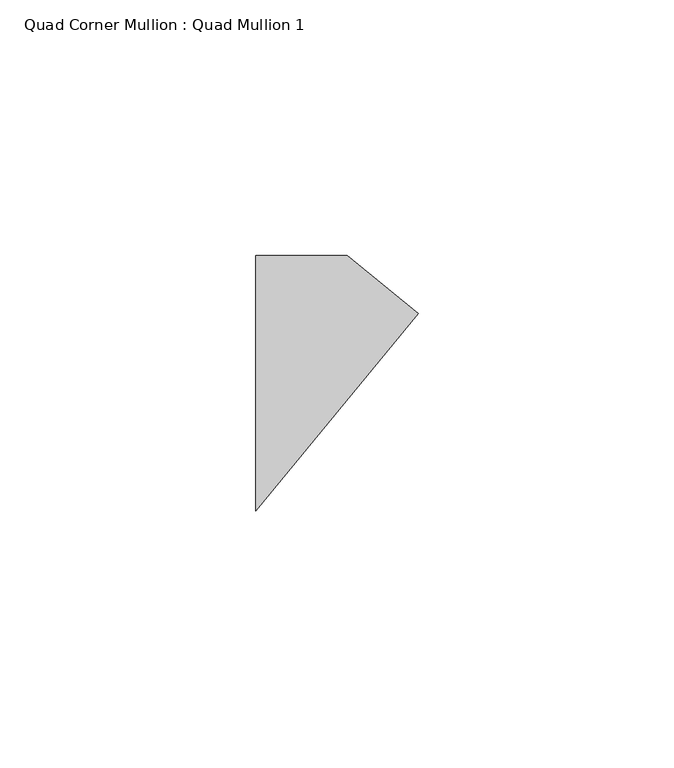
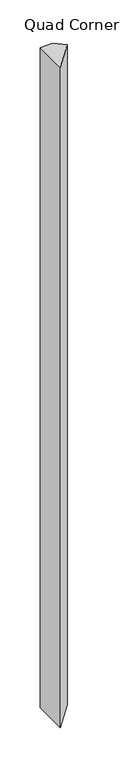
"""IFC4 building model written with IfcOpenShell, lengths in millimetres: member geometry, Quad Corner Mullion : Quad Mullion 1."""

from ifc_helpers import new_model, si_unit, frame, origin, place, context, project, spatial, polyline, outline, extrude, source, transform, mapped, element, save


def quad_corner_mullion_quad_mullion_1_27d62818(model_context):
    return source(origin(), model_context, "Body", "SweptSolid", [
        extrude(outline(polyline([(22.8068923, 13.6086231), (-8.963758, -25.0), (-8.963758, 25.0), (8.963758, 25.0), (22.8068923, 13.6086231)])), frame((0.0, 0.0, -1000.0), z_axis=(0.0, 0.0, 1.0), x_axis=(1.0, 0.0, 0.0)), (0.0, 0.0, 1.0), 1000.0),
    ])


if __name__ == "__main__":
    model = new_model("IFC4")
    model_context = context("Model", 3, world=origin())
    ifc_project = project(units=[si_unit("LENGTHUNIT", "METRE", prefix="MILLI")], contexts=[model_context])
    site = spatial("IfcSite", under=ifc_project)
    building = spatial("IfcBuilding", under=site)
    placement = place(None, origin())
    quad_corner_mullion_quad_mullion_1_shape = quad_corner_mullion_quad_mullion_1_27d62818(model_context)
    element("IfcMember", 1, ObjectType="Quad Corner Mullion : Quad Mullion 1", at=placement, inside=building, context=model_context, shape_type="MappedRepresentation", body=[
        mapped(quad_corner_mullion_quad_mullion_1_shape, transform((0.0, 0.0, 0.0), x_axis=(1.0, 0.0, 0.0), y_axis=(0.0, 1.0, 0.0), z_axis=(0.0, 0.0, 1.0))),
    ])
    save(model, "model.ifc")
